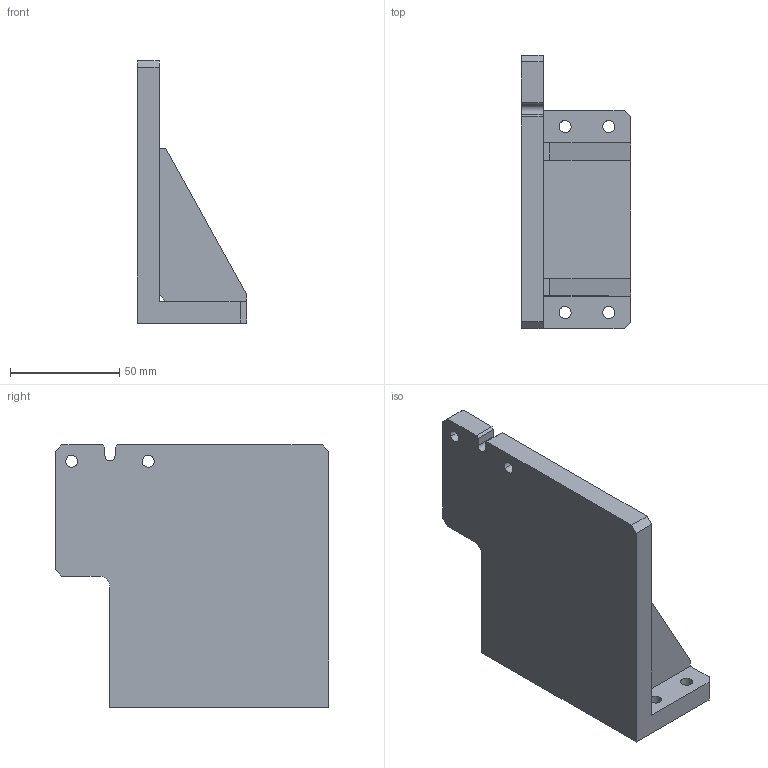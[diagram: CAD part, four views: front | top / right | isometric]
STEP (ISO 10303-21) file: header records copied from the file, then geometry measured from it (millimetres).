
FILE_DESCRIPTION(('CATIA V5 STEP Exchange'),'2;1');
FILE_NAME('D:\姚明阳\1、工装图纸\AGZ131\AGZ132.09_V1.stp','2025-02-06T03:54:28+00:00',('none'),('none'),'CATIA Version 5 Release 20 GA (IN-10)','CATIA V5 STEP AP203','none');
FILE_SCHEMA(('CONFIG_CONTROL_DESIGN'));
Length unit declared in the file: millimetre
Products named in the file (1): AGZ132.09_V1
Bounding box: 50 x 125 x 119.9 mm (x, y, z)
Volume: 197876.1 mm3; surface area: 50612.4 mm2
Topology: 3 solids, 3 shells, 50 faces, 132 edges, 88 vertices
Faces by surface type: plane 36, cylinder 14
Entity records: 1513 total; most frequent: ORIENTED_EDGE 264, CARTESIAN_POINT 258, DIRECTION 206, EDGE_CURVE 132, VECTOR 104, LINE 104, VERTEX_POINT 88, AXIS2_PLACEMENT_3D 66
